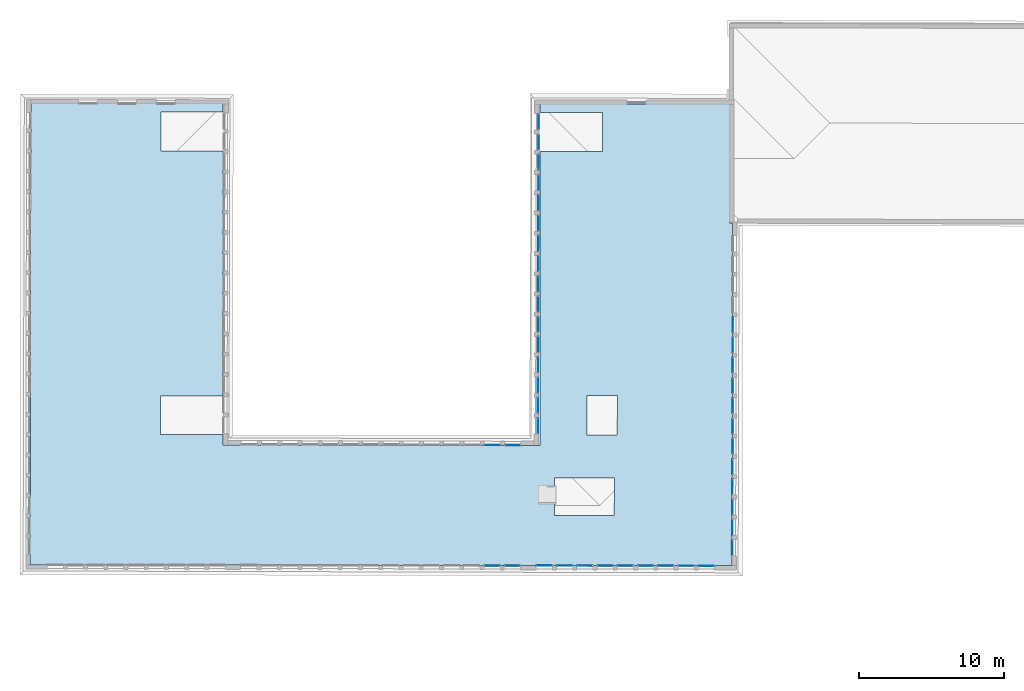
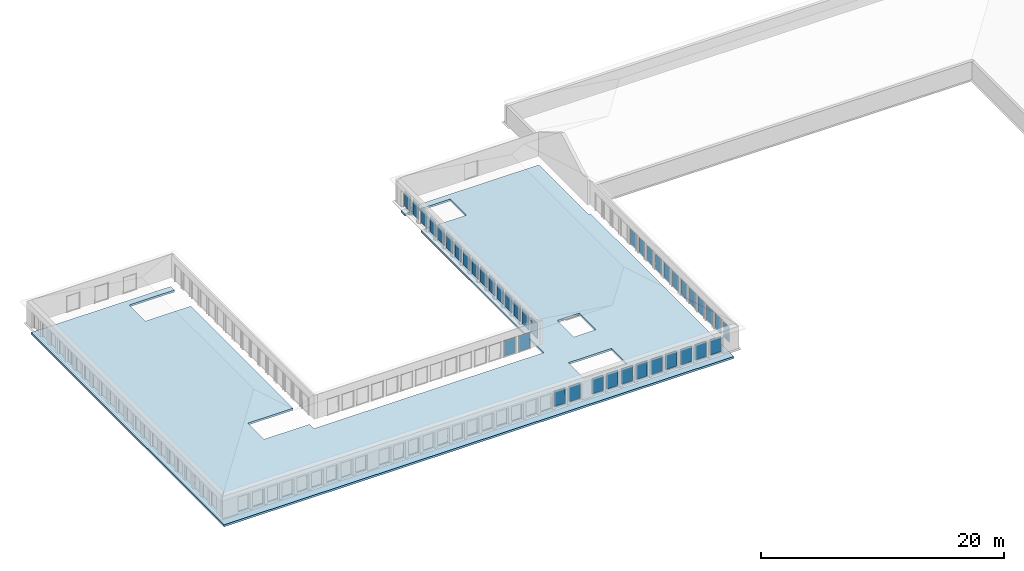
# One storey, part 18 of 26: 41 plates, 1 slab, 2 openings, 41 elements without a shape of their own.
"""IFC2X3 building model written with IfcOpenShell, lengths in metres."""

from ifc_helpers import new_model, entity, si_unit, converted_unit, derived_unit, direction, frame, frame_2d, origin, place, context, subcontext, project, spatial, polyline, rectangle, outline, extrude, boolean, source, transform, mapped, material, layer, layer_set, layer_usage, type_object, type_shapes, element, aggregate, save


model = new_model("IFC2X3")

# Units and contexts
model_context = context("Model", 3, precision=1e-05, world=origin(), true_north=direction((6.123233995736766e-17, 1.0)))
body_context = subcontext(model_context, "Body", "Model", "MODEL_VIEW")
ifc_project = project(units=[si_unit("LENGTHUNIT", "METRE"), si_unit("AREAUNIT", "SQUARE_METRE"), converted_unit("PLANEANGLEUNIT", "DEGREE", entity("IfcPlaneAngleMeasure", 0.017453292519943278), si_unit("PLANEANGLEUNIT", "RADIAN"), dimensions=[0, 0, 0, 0, 0, 0, 0]), derived_unit("THERMALTRANSMITTANCEUNIT", [(si_unit("MASSUNIT", "GRAM", prefix="KILO"), 1), (si_unit("THERMODYNAMICTEMPERATUREUNIT", "KELVIN"), -1), (si_unit("TIMEUNIT", "SECOND"), -3)])], contexts=[model_context])

# Site, building, storey
site_placement = place(None, frame((1253.6752467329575, 2072.143113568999, 91.49999999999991), z_axis=(0.0, 0.0, 1.0), x_axis=(0.7237211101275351, 0.6900925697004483, 0.0)))
site = spatial("IfcSite", under=ifc_project, at=site_placement, Name="Surface", CompositionType="ELEMENT")
building_placement = place(site_placement, origin())
building = spatial("IfcBuilding", under=site, at=building_placement, CompositionType="ELEMENT")
storey_placement = place(building_placement, frame((0.0, 0.0, 7.0)))
storey = spatial("IfcBuildingStorey", under=building, at=storey_placement, Name="2-R+2", CompositionType="ELEMENT", Elevation=6.999999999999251)

# Slab, openings
ifc_material_1 = material(Name="OMD_Béton blanc")
ifc_layer_1 = layer(ifc_material_1, 0.2)
ifc_layer_set_1 = layer_set([ifc_layer_1], Name="Sol:Dalle 20")
ifc_layer_usage = layer_usage(ifc_layer_set_1, "AXIS3", "POSITIVE", 0.0)
slab_type = type_object("IfcSlabType", Name="Sol:Dalle 20", PredefinedType="FLOOR", material=ifc_layer_set_1)
slab_placement = place(storey_placement, origin())
slab = element("IfcSlab", 1, at=slab_placement, inside=storey, type_object=slab_type, material=ifc_layer_usage, Name="Sol:Dalle 20", ObjectType="Sol:Dalle 20", PredefinedType="FLOOR", context=body_context, shape_type="SweptSolid", body=[
    boolean("DIFFERENCE", boolean("DIFFERENCE", extrude(outline(polyline([(-10.40944307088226, 10.754973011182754), (-9.807814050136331, 10.754973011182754), (-9.80781405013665, 15.056299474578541), (-7.136810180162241, 15.056299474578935), (-7.136810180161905, 10.754973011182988), (9.793189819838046, 10.754973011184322), (9.793189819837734, 15.069441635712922), (12.463189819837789, 15.06944163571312), (12.463189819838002, 10.75497301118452), (13.178189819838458, 10.754973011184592), (13.178189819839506, -11.14502698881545), (-7.136810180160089, -11.145026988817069), (-7.136810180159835, -15.455026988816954), (-9.806810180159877, -15.455026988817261), (-9.806810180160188, -11.145026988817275), (-10.42181018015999, -11.145026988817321), (-10.421810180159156, -24.250318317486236), (-2.184140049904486, -24.25031831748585), (-2.1841400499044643, -24.44502698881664), (21.478189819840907, -24.44502698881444), (21.478189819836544, 24.053532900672), (-10.42768584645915, 24.045999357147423), (-10.40944307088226, 10.754973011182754)])), frame((176.46200205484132, 3.181986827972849, 0.0), z_axis=(0.0, 0.0, -1.0), x_axis=(-0.6909838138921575, -0.722870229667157, 0.0)), (0.0, 0.0, 1.0), 0.2), extrude(rectangle(XDim=2.7349999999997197, YDim=2.099999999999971, at=frame_2d((4.551914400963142e-15, 4.440892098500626e-15), x_axis=(1.0, 0.0))), frame((179.9598101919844, -15.511020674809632, -0.2), z_axis=(0.0, 0.0, 1.0), x_axis=(0.6909838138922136, 0.7228702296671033, 0.0)), (0.0, 0.0, 1.0), 0.2)), extrude(rectangle(XDim=2.5849999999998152, YDim=4.129999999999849, at=frame_2d((2.275957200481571e-14, 2.1760371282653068e-14), x_axis=(1.0, 0.0))), frame((175.18437415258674, -18.74846343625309, -0.2), z_axis=(0.0, 0.0, 1.0), x_axis=(0.6909838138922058, 0.722870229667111, 0.0)), (0.0, 0.0, 1.0), 0.19999999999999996)),
])
opening_1_placement = place(slab_placement, origin())
element("IfcOpeningElement", 2, at=opening_1_placement, cuts=slab, Name="Sol:Dalle 20", ObjectType="Opening", context=body_context, shape_type="SweptSolid", body=[
    extrude(rectangle(XDim=2.7349999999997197, YDim=2.0999999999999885, at=frame_2d((3.1086244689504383e-15, -2.9976021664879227e-15), x_axis=(1.0, 0.0))), frame((179.9598101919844, -15.511020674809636, 0.0), z_axis=(0.0, 0.0, -1.0), x_axis=(-0.6909838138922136, -0.7228702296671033, 0.0)), (0.0, 0.0, 1.0), 0.2),
])
opening_2_placement = place(slab_placement, origin())
element("IfcOpeningElement", 3, at=opening_2_placement, cuts=slab, Name="Sol:Dalle 20", ObjectType="Opening", context=body_context, shape_type="SweptSolid", body=[
    extrude(rectangle(XDim=2.5849999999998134, YDim=4.1299999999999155, at=frame_2d((3.3861802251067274e-14, -8.215650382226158e-15), x_axis=(1.0, 0.0))), frame((175.18437415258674, -18.748463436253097, 0.0), z_axis=(0.0, 0.0, -1.0), x_axis=(-0.6909838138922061, -0.7228702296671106, 0.0)), (0.0, 0.0, 1.0), 0.2),
])

# Curtain wall, plate
curtain_wall_type = type_object("IfcCurtainWallType", Name="Mur-rideau:Menuiserie Ext 1F+1OB VERTIC", PredefinedType="NOTDEFINED")
curtain_wall_1_placement = place(storey_placement, frame((0.0, 0.0, -7.0)))
curtain_wall_1 = element("IfcCurtainWall", 4, at=curtain_wall_1_placement, inside=storey, type_object=curtain_wall_type, Name="Mur-rideau:Menuiserie Ext 1F+1OB VERTIC", ObjectType="Mur-rideau:Menuiserie Ext 1F+1OB VERTIC")
ifc_material_2 = material(Name="Verre")
ifc_layer_2 = layer(ifc_material_2, 0.01)
ifc_layer_set_2 = layer_set([ifc_layer_2], Name="Panneau système:Vitré")
plate_type_1 = type_object("IfcPlateType", Name="Panneau système:Vitré", PredefinedType="CURTAIN_PANEL", material=ifc_layer_set_2)
shared_shape_1 = source(origin(), body_context, "Body", "SweptSolid", [
    extrude(rectangle(XDim=0.01, YDim=1.0399999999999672, at=frame_2d((0.0, -8.881784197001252e-16), x_axis=(1.0, 0.0))), frame((0.0, 0.0, 0.0), z_axis=(0.0, 0.0, 1.0), x_axis=(0.0, 1.0, 0.0)), (0.0, 0.0, 1.0), 1.5499999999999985),
])
type_shapes(plate_type_1, [shared_shape_1])
plate_1_placement = place(curtain_wall_1_placement, frame((190.7810137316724, 2.1752439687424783, 7.950000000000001), z_axis=(0.0, 0.0, 1.0), x_axis=(0.6909838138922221, 0.7228702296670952, 0.0)))
plate_1 = element("IfcPlate", 5, at=plate_1_placement, type_object=plate_type_1, material=ifc_material_2, Name="Panneau système:Vitré", ObjectType="Panneau système:Vitré", context=body_context, shape_type="MappedRepresentation", body=[
    mapped(shared_shape_1, transform((0.0, 0.0, 0.0), scale=1.0)),
])
aggregate(curtain_wall_1, [plate_1])

curtain_wall_2_placement = place(storey_placement, frame((0.0, 0.0, -7.0)))
curtain_wall_2 = element("IfcCurtainWall", 6, at=curtain_wall_2_placement, inside=storey, type_object=curtain_wall_type, Name="Mur-rideau:Menuiserie Ext 1F+1OB VERTIC", ObjectType="Mur-rideau:Menuiserie Ext 1F+1OB VERTIC")
plate_2_placement = place(curtain_wall_2_placement, frame((189.81224824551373, 1.1645543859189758, 7.950000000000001), z_axis=(0.0, 0.0, 1.0), x_axis=(0.6909838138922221, 0.7228702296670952, 0.0)))
plate_2 = element("IfcPlate", 7, at=plate_2_placement, type_object=plate_type_1, material=ifc_material_2, Name="Panneau système:Vitré", ObjectType="Panneau système:Vitré", context=body_context, shape_type="MappedRepresentation", body=[
    mapped(shared_shape_1, transform((0.0, 0.0, 0.0), scale=1.0)),
])
aggregate(curtain_wall_2, [plate_2])

curtain_wall_3_placement = place(storey_placement, frame((0.0, 0.0, -7.0)))
curtain_wall_3 = element("IfcCurtainWall", 8, at=curtain_wall_3_placement, inside=storey, type_object=curtain_wall_type, Name="Mur-rideau:Menuiserie Ext 1F+1OB VERTIC", ObjectType="Mur-rideau:Menuiserie Ext 1F+1OB VERTIC")
plate_3_placement = place(curtain_wall_3_placement, frame((188.84348275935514, 0.15386480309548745, 7.950000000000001), z_axis=(0.0, 0.0, 1.0), x_axis=(0.6909838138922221, 0.7228702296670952, 0.0)))
plate_3 = element("IfcPlate", 9, at=plate_3_placement, type_object=plate_type_1, material=ifc_material_2, Name="Panneau système:Vitré", ObjectType="Panneau système:Vitré", context=body_context, shape_type="MappedRepresentation", body=[
    mapped(shared_shape_1, transform((0.0, 0.0, 0.0), scale=1.0)),
])
aggregate(curtain_wall_3, [plate_3])

curtain_wall_4_placement = place(storey_placement, frame((0.0, 0.0, -7.0)))
curtain_wall_4 = element("IfcCurtainWall", 10, at=curtain_wall_4_placement, inside=storey, type_object=curtain_wall_type, Name="Mur-rideau:Menuiserie Ext 1F+1OB VERTIC", ObjectType="Mur-rideau:Menuiserie Ext 1F+1OB VERTIC")
plate_4_placement = place(curtain_wall_4_placement, frame((187.87471727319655, -0.8568247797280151, 7.950000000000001), z_axis=(0.0, 0.0, 1.0), x_axis=(0.6909838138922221, 0.7228702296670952, 0.0)))
plate_4 = element("IfcPlate", 11, at=plate_4_placement, type_object=plate_type_1, material=ifc_material_2, Name="Panneau système:Vitré", ObjectType="Panneau système:Vitré", context=body_context, shape_type="MappedRepresentation", body=[
    mapped(shared_shape_1, transform((0.0, 0.0, 0.0), scale=1.0)),
])
aggregate(curtain_wall_4, [plate_4])

curtain_wall_5_placement = place(storey_placement, frame((0.0, 0.0, -7.0)))
curtain_wall_5 = element("IfcCurtainWall", 12, at=curtain_wall_5_placement, inside=storey, type_object=curtain_wall_type, Name="Mur-rideau:Menuiserie Ext 1F+1OB VERTIC", ObjectType="Mur-rideau:Menuiserie Ext 1F+1OB VERTIC")
plate_5_placement = place(curtain_wall_5_placement, frame((186.90595178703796, -1.867514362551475, 7.950000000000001), z_axis=(0.0, 0.0, 1.0), x_axis=(0.6909838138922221, 0.7228702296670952, 0.0)))
plate_5 = element("IfcPlate", 13, at=plate_5_placement, type_object=plate_type_1, material=ifc_material_2, Name="Panneau système:Vitré", ObjectType="Panneau système:Vitré", context=body_context, shape_type="MappedRepresentation", body=[
    mapped(shared_shape_1, transform((0.0, 0.0, 0.0), scale=1.0)),
])
aggregate(curtain_wall_5, [plate_5])

curtain_wall_6_placement = place(storey_placement, frame((0.0, 0.0, -7.0)))
curtain_wall_6 = element("IfcCurtainWall", 14, at=curtain_wall_6_placement, inside=storey, type_object=curtain_wall_type, Name="Mur-rideau:Menuiserie Ext 1F+1OB VERTIC", ObjectType="Mur-rideau:Menuiserie Ext 1F+1OB VERTIC")
plate_6_placement = place(curtain_wall_6_placement, frame((185.93718630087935, -2.8782039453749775, 7.950000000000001), z_axis=(0.0, 0.0, 1.0), x_axis=(0.6909838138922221, 0.7228702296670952, 0.0)))
plate_6 = element("IfcPlate", 15, at=plate_6_placement, type_object=plate_type_1, material=ifc_material_2, Name="Panneau système:Vitré", ObjectType="Panneau système:Vitré", context=body_context, shape_type="MappedRepresentation", body=[
    mapped(shared_shape_1, transform((0.0, 0.0, 0.0), scale=1.0)),
])
aggregate(curtain_wall_6, [plate_6])

curtain_wall_7_placement = place(storey_placement, frame((0.0, 0.0, -7.0)))
curtain_wall_7 = element("IfcCurtainWall", 16, at=curtain_wall_7_placement, inside=storey, type_object=curtain_wall_type, Name="Mur-rideau:Menuiserie Ext 1F+1OB VERTIC", ObjectType="Mur-rideau:Menuiserie Ext 1F+1OB VERTIC")
plate_7_placement = place(curtain_wall_7_placement, frame((184.9684208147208, -3.888893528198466, 7.950000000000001), z_axis=(0.0, 0.0, 1.0), x_axis=(0.6909838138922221, 0.7228702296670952, 0.0)))
plate_7 = element("IfcPlate", 17, at=plate_7_placement, type_object=plate_type_1, material=ifc_material_2, Name="Panneau système:Vitré", ObjectType="Panneau système:Vitré", context=body_context, shape_type="MappedRepresentation", body=[
    mapped(shared_shape_1, transform((0.0, 0.0, 0.0), scale=1.0)),
])
aggregate(curtain_wall_7, [plate_7])

curtain_wall_8_placement = place(storey_placement, frame((0.0, 0.0, -7.0)))
curtain_wall_8 = element("IfcCurtainWall", 18, at=curtain_wall_8_placement, inside=storey, type_object=curtain_wall_type, Name="Mur-rideau:Menuiserie Ext 1F+1OB VERTIC", ObjectType="Mur-rideau:Menuiserie Ext 1F+1OB VERTIC")
plate_8_placement = place(curtain_wall_8_placement, frame((183.99965532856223, -4.899583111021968, 7.950000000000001), z_axis=(0.0, 0.0, 1.0), x_axis=(0.6909838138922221, 0.7228702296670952, 0.0)))
plate_8 = element("IfcPlate", 19, at=plate_8_placement, type_object=plate_type_1, material=ifc_material_2, Name="Panneau système:Vitré", ObjectType="Panneau système:Vitré", context=body_context, shape_type="MappedRepresentation", body=[
    mapped(shared_shape_1, transform((0.0, 0.0, 0.0), scale=1.0)),
])
aggregate(curtain_wall_8, [plate_8])

curtain_wall_9_placement = place(storey_placement, frame((0.0, 0.0, -7.0)))
curtain_wall_9 = element("IfcCurtainWall", 20, at=curtain_wall_9_placement, inside=storey, type_object=curtain_wall_type, Name="Mur-rideau:Menuiserie Ext 1F+1OB VERTIC", ObjectType="Mur-rideau:Menuiserie Ext 1F+1OB VERTIC")
plate_9_placement = place(curtain_wall_9_placement, frame((183.03088984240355, -5.910272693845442, 7.950000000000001), z_axis=(0.0, 0.0, 1.0), x_axis=(0.6909838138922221, 0.7228702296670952, 0.0)))
plate_9 = element("IfcPlate", 21, at=plate_9_placement, type_object=plate_type_1, material=ifc_material_2, Name="Panneau système:Vitré", ObjectType="Panneau système:Vitré", context=body_context, shape_type="MappedRepresentation", body=[
    mapped(shared_shape_1, transform((0.0, 0.0, 0.0), scale=1.0)),
])
aggregate(curtain_wall_9, [plate_9])

curtain_wall_10_placement = place(storey_placement, frame((0.0, 0.0, -7.0)))
curtain_wall_10 = element("IfcCurtainWall", 22, at=curtain_wall_10_placement, inside=storey, type_object=curtain_wall_type, Name="Mur-rideau:Menuiserie Ext 1F+1OB VERTIC", ObjectType="Mur-rideau:Menuiserie Ext 1F+1OB VERTIC")
plate_10_placement = place(curtain_wall_10_placement, frame((182.062124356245, -6.9209622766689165, 7.950000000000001), z_axis=(0.0, 0.0, 1.0), x_axis=(0.6909838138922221, 0.7228702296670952, 0.0)))
plate_10 = element("IfcPlate", 23, at=plate_10_placement, type_object=plate_type_1, material=ifc_material_2, Name="Panneau système:Vitré", ObjectType="Panneau système:Vitré", context=body_context, shape_type="MappedRepresentation", body=[
    mapped(shared_shape_1, transform((0.0, 0.0, 0.0), scale=1.0)),
])
aggregate(curtain_wall_10, [plate_10])

curtain_wall_11_placement = place(storey_placement, frame((0.0, 0.0, -7.0)))
curtain_wall_11 = element("IfcCurtainWall", 24, at=curtain_wall_11_placement, inside=storey, type_object=curtain_wall_type, Name="Mur-rideau:Menuiserie Ext 1F+1OB VERTIC", ObjectType="Mur-rideau:Menuiserie Ext 1F+1OB VERTIC")
plate_11_placement = place(curtain_wall_11_placement, frame((181.10719837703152, -7.9172134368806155, 7.950000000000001), z_axis=(0.0, 0.0, 1.0), x_axis=(0.6909838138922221, 0.7228702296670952, 0.0)))
plate_11 = element("IfcPlate", 25, at=plate_11_placement, type_object=plate_type_1, material=ifc_material_2, Name="Panneau système:Vitré", ObjectType="Panneau système:Vitré", context=body_context, shape_type="MappedRepresentation", body=[
    mapped(shared_shape_1, transform((0.0, 0.0, 0.0), scale=1.0)),
])
aggregate(curtain_wall_11, [plate_11])

curtain_wall_12_placement = place(storey_placement, frame((0.0, 0.0, -7.0)))
curtain_wall_12 = element("IfcCurtainWall", 26, at=curtain_wall_12_placement, inside=storey, type_object=curtain_wall_type, Name="Mur-rideau:Menuiserie Ext 1F+1OB VERTIC", ObjectType="Mur-rideau:Menuiserie Ext 1F+1OB VERTIC")
plate_12_placement = place(curtain_wall_12_placement, frame((180.13843289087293, -8.927903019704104, 7.950000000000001), z_axis=(0.0, 0.0, 1.0), x_axis=(0.6909838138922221, 0.7228702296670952, 0.0)))
plate_12 = element("IfcPlate", 27, at=plate_12_placement, type_object=plate_type_1, material=ifc_material_2, Name="Panneau système:Vitré", ObjectType="Panneau système:Vitré", context=body_context, shape_type="MappedRepresentation", body=[
    mapped(shared_shape_1, transform((0.0, 0.0, 0.0), scale=1.0)),
])
aggregate(curtain_wall_12, [plate_12])

curtain_wall_13_placement = place(storey_placement, frame((0.0, 0.0, -7.0)))
curtain_wall_13 = element("IfcCurtainWall", 28, at=curtain_wall_13_placement, inside=storey, type_object=curtain_wall_type, Name="Mur-rideau:Menuiserie Ext 1F+1OB VERTIC", ObjectType="Mur-rideau:Menuiserie Ext 1F+1OB VERTIC")
plate_13_placement = place(curtain_wall_13_placement, frame((179.16966740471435, -9.93859260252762, 7.950000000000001), z_axis=(0.0, 0.0, 1.0), x_axis=(0.6909838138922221, 0.7228702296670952, 0.0)))
plate_13 = element("IfcPlate", 29, at=plate_13_placement, type_object=plate_type_1, material=ifc_material_2, Name="Panneau système:Vitré", ObjectType="Panneau système:Vitré", context=body_context, shape_type="MappedRepresentation", body=[
    mapped(shared_shape_1, transform((0.0, 0.0, 0.0), scale=1.0)),
])
aggregate(curtain_wall_13, [plate_13])

curtain_wall_14_placement = place(storey_placement, frame((0.0, 0.0, -7.0)))
curtain_wall_14 = element("IfcCurtainWall", 30, at=curtain_wall_14_placement, inside=storey, type_object=curtain_wall_type, Name="Mur-rideau:Menuiserie Ext 1F+1OB VERTIC", ObjectType="Mur-rideau:Menuiserie Ext 1F+1OB VERTIC")
plate_14_placement = place(curtain_wall_14_placement, frame((178.20090191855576, -10.949282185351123, 7.950000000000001), z_axis=(0.0, 0.0, 1.0), x_axis=(0.6909838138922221, 0.7228702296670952, 0.0)))
plate_14 = element("IfcPlate", 31, at=plate_14_placement, type_object=plate_type_1, material=ifc_material_2, Name="Panneau système:Vitré", ObjectType="Panneau système:Vitré", context=body_context, shape_type="MappedRepresentation", body=[
    mapped(shared_shape_1, transform((0.0, 0.0, 0.0), scale=1.0)),
])
aggregate(curtain_wall_14, [plate_14])

curtain_wall_15_placement = place(storey_placement, frame((0.0, 0.0, -7.0)))
curtain_wall_15 = element("IfcCurtainWall", 32, at=curtain_wall_15_placement, inside=storey, type_object=curtain_wall_type, Name="Mur-rideau:Menuiserie Ext 1F+1OB VERTIC", ObjectType="Mur-rideau:Menuiserie Ext 1F+1OB VERTIC")
plate_15_placement = place(curtain_wall_15_placement, frame((177.23213643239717, -11.959971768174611, 7.950000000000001), z_axis=(0.0, 0.0, 1.0), x_axis=(0.6909838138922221, 0.7228702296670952, 0.0)))
plate_15 = element("IfcPlate", 33, at=plate_15_placement, type_object=plate_type_1, material=ifc_material_2, Name="Panneau système:Vitré", ObjectType="Panneau système:Vitré", context=body_context, shape_type="MappedRepresentation", body=[
    mapped(shared_shape_1, transform((0.0, 0.0, 0.0), scale=1.0)),
])
aggregate(curtain_wall_15, [plate_15])

curtain_wall_16_placement = place(storey_placement, frame((0.0, 0.0, -7.0)))
curtain_wall_16 = element("IfcCurtainWall", 34, at=curtain_wall_16_placement, inside=storey, type_object=curtain_wall_type, Name="Mur-rideau:Menuiserie Ext 1F+1OB VERTIC", ObjectType="Mur-rideau:Menuiserie Ext 1F+1OB VERTIC")
plate_16_placement = place(curtain_wall_16_placement, frame((176.26337094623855, -12.9706613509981, 7.950000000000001), z_axis=(0.0, 0.0, 1.0), x_axis=(0.6909838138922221, 0.7228702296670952, 0.0)))
plate_16 = element("IfcPlate", 35, at=plate_16_placement, type_object=plate_type_1, material=ifc_material_2, Name="Panneau système:Vitré", ObjectType="Panneau système:Vitré", context=body_context, shape_type="MappedRepresentation", body=[
    mapped(shared_shape_1, transform((0.0, 0.0, 0.0), scale=1.0)),
])
aggregate(curtain_wall_16, [plate_16])

curtain_wall_17_placement = place(storey_placement, frame((0.0, 0.0, -7.0)))
curtain_wall_17 = element("IfcCurtainWall", 36, at=curtain_wall_17_placement, inside=storey, type_object=curtain_wall_type, Name="Mur-rideau:Menuiserie Ext 1F+1OB VERTIC", ObjectType="Mur-rideau:Menuiserie Ext 1F+1OB VERTIC")
plate_17_placement = place(curtain_wall_17_placement, frame((173.0576155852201, -11.778594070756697, 7.950000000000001), z_axis=(0.0, 0.0, 1.0), x_axis=(0.7228702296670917, -0.6909838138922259, 0.0)))
plate_17 = element("IfcPlate", 37, at=plate_17_placement, type_object=plate_type_1, material=ifc_material_2, Name="Panneau système:Vitré", ObjectType="Panneau système:Vitré", context=body_context, shape_type="MappedRepresentation", body=[
    mapped(shared_shape_1, transform((0.0, 0.0, 0.0), scale=1.0)),
])
aggregate(curtain_wall_17, [plate_17])

curtain_wall_18_placement = place(storey_placement, frame((0.0, 0.0, -7.0)))
curtain_wall_18 = element("IfcCurtainWall", 38, at=curtain_wall_18_placement, inside=storey, type_object=curtain_wall_type, Name="Mur-rideau:Menuiserie Ext 1F+1OB VERTIC", ObjectType="Mur-rideau:Menuiserie Ext 1F+1OB VERTIC")
plate_18_placement = place(curtain_wall_18_placement, frame((174.0683051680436, -12.747359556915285, 7.950000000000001), z_axis=(0.0, 0.0, 1.0), x_axis=(0.7228702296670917, -0.6909838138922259, 0.0)))
plate_18 = element("IfcPlate", 39, at=plate_18_placement, type_object=plate_type_1, material=ifc_material_2, Name="Panneau système:Vitré", ObjectType="Panneau système:Vitré", context=body_context, shape_type="MappedRepresentation", body=[
    mapped(shared_shape_1, transform((0.0, 0.0, 0.0), scale=1.0)),
])
aggregate(curtain_wall_18, [plate_18])

curtain_wall_19_placement = place(storey_placement, frame((0.0, 0.0, -7.0)))
curtain_wall_19 = element("IfcCurtainWall", 40, at=curtain_wall_19_placement, inside=storey, type_object=curtain_wall_type, Name="Mur-rideau:Menuiserie Ext 1F+1OB VERTIC", ObjectType="Mur-rideau:Menuiserie Ext 1F+1OB VERTIC")
plate_19_placement = place(curtain_wall_19_placement, frame((177.99092816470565, -28.019537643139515, 7.950000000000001), z_axis=(0.0, 0.0, 1.0), x_axis=(-0.7228702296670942, 0.6909838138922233, 0.0)))
plate_19 = element("IfcPlate", 41, at=plate_19_placement, type_object=plate_type_1, material=ifc_material_2, Name="Panneau système:Vitré", ObjectType="Panneau système:Vitré", context=body_context, shape_type="MappedRepresentation", body=[
    mapped(shared_shape_1, transform((0.0, 0.0, 0.0), scale=1.0)),
])
aggregate(curtain_wall_19, [plate_19])

curtain_wall_20_placement = place(storey_placement, frame((0.0, 0.0, -7.0)))
curtain_wall_20 = element("IfcCurtainWall", 42, at=curtain_wall_20_placement, inside=storey, type_object=curtain_wall_type, Name="Mur-rideau:Menuiserie Ext 1F+1OB VERTIC", ObjectType="Mur-rideau:Menuiserie Ext 1F+1OB VERTIC")
plate_20_placement = place(curtain_wall_20_placement, frame((176.98023858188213, -27.050772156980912, 7.950000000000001), z_axis=(0.0, 0.0, 1.0), x_axis=(-0.7228702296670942, 0.6909838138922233, 0.0)))
plate_20 = element("IfcPlate", 43, at=plate_20_placement, type_object=plate_type_1, material=ifc_material_2, Name="Panneau système:Vitré", ObjectType="Panneau système:Vitré", context=body_context, shape_type="MappedRepresentation", body=[
    mapped(shared_shape_1, transform((0.0, 0.0, 0.0), scale=1.0)),
])
aggregate(curtain_wall_20, [plate_20])

curtain_wall_21_placement = place(storey_placement, frame((0.0, 0.0, -7.0)))
curtain_wall_21 = element("IfcCurtainWall", 44, at=curtain_wall_21_placement, inside=storey, type_object=curtain_wall_type, Name="Mur-rideau:Menuiserie Ext 1F+1OB VERTIC", ObjectType="Mur-rideau:Menuiserie Ext 1F+1OB VERTIC")
plate_21_placement = place(curtain_wall_21_placement, frame((175.96954899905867, -26.082006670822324, 7.950000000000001), z_axis=(0.0, 0.0, 1.0), x_axis=(-0.7228702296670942, 0.6909838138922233, 0.0)))
plate_21 = element("IfcPlate", 45, at=plate_21_placement, type_object=plate_type_1, material=ifc_material_2, Name="Panneau système:Vitré", ObjectType="Panneau système:Vitré", context=body_context, shape_type="MappedRepresentation", body=[
    mapped(shared_shape_1, transform((0.0, 0.0, 0.0), scale=1.0)),
])
aggregate(curtain_wall_21, [plate_21])

curtain_wall_22_placement = place(storey_placement, frame((0.0, 0.0, -7.0)))
curtain_wall_22 = element("IfcCurtainWall", 46, at=curtain_wall_22_placement, inside=storey, type_object=curtain_wall_type, Name="Mur-rideau:Menuiserie Ext 1F+1OB VERTIC", ObjectType="Mur-rideau:Menuiserie Ext 1F+1OB VERTIC")
plate_22_placement = place(curtain_wall_22_placement, frame((174.95885941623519, -25.11324118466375, 7.950000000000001), z_axis=(0.0, 0.0, 1.0), x_axis=(-0.7228702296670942, 0.6909838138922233, 0.0)))
plate_22 = element("IfcPlate", 47, at=plate_22_placement, type_object=plate_type_1, material=ifc_material_2, Name="Panneau système:Vitré", ObjectType="Panneau système:Vitré", context=body_context, shape_type="MappedRepresentation", body=[
    mapped(shared_shape_1, transform((0.0, 0.0, 0.0), scale=1.0)),
])
aggregate(curtain_wall_22, [plate_22])

curtain_wall_23_placement = place(storey_placement, frame((0.0, 0.0, -7.0)))
curtain_wall_23 = element("IfcCurtainWall", 48, at=curtain_wall_23_placement, inside=storey, type_object=curtain_wall_type, Name="Mur-rideau:Menuiserie Ext 1F+1OB VERTIC", ObjectType="Mur-rideau:Menuiserie Ext 1F+1OB VERTIC")
plate_23_placement = place(curtain_wall_23_placement, frame((173.94816983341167, -24.144475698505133, 7.950000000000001), z_axis=(0.0, 0.0, 1.0), x_axis=(-0.7228702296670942, 0.6909838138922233, 0.0)))
plate_23 = element("IfcPlate", 49, at=plate_23_placement, type_object=plate_type_1, material=ifc_material_2, Name="Panneau système:Vitré", ObjectType="Panneau système:Vitré", context=body_context, shape_type="MappedRepresentation", body=[
    mapped(shared_shape_1, transform((0.0, 0.0, 0.0), scale=1.0)),
])
aggregate(curtain_wall_23, [plate_23])

curtain_wall_24_placement = place(storey_placement, frame((0.0, 0.0, -7.0)))
curtain_wall_24 = element("IfcCurtainWall", 50, at=curtain_wall_24_placement, inside=storey, type_object=curtain_wall_type, Name="Mur-rideau:Menuiserie Ext 1F+1OB VERTIC", ObjectType="Mur-rideau:Menuiserie Ext 1F+1OB VERTIC")
plate_24_placement = place(curtain_wall_24_placement, frame((172.93748025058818, -23.175710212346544, 7.950000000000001), z_axis=(0.0, 0.0, 1.0), x_axis=(-0.7228702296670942, 0.6909838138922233, 0.0)))
plate_24 = element("IfcPlate", 51, at=plate_24_placement, type_object=plate_type_1, material=ifc_material_2, Name="Panneau système:Vitré", ObjectType="Panneau système:Vitré", context=body_context, shape_type="MappedRepresentation", body=[
    mapped(shared_shape_1, transform((0.0, 0.0, 0.0), scale=1.0)),
])
aggregate(curtain_wall_24, [plate_24])

curtain_wall_25_placement = place(storey_placement, frame((0.0, 0.0, -7.0)))
curtain_wall_25 = element("IfcCurtainWall", 52, at=curtain_wall_25_placement, inside=storey, type_object=curtain_wall_type, Name="Mur-rideau:Menuiserie Ext 1F+1OB VERTIC", ObjectType="Mur-rideau:Menuiserie Ext 1F+1OB VERTIC")
plate_25_placement = place(curtain_wall_25_placement, frame((171.9267906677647, -22.20694472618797, 7.950000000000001), z_axis=(0.0, 0.0, 1.0), x_axis=(-0.7228702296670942, 0.6909838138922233, 0.0)))
plate_25 = element("IfcPlate", 53, at=plate_25_placement, type_object=plate_type_1, material=ifc_material_2, Name="Panneau système:Vitré", ObjectType="Panneau système:Vitré", context=body_context, shape_type="MappedRepresentation", body=[
    mapped(shared_shape_1, transform((0.0, 0.0, 0.0), scale=1.0)),
])
aggregate(curtain_wall_25, [plate_25])

curtain_wall_26_placement = place(storey_placement, frame((0.0, 0.0, -7.0)))
curtain_wall_26 = element("IfcCurtainWall", 54, at=curtain_wall_26_placement, inside=storey, type_object=curtain_wall_type, Name="Mur-rideau:Menuiserie Ext 1F+1OB VERTIC", ObjectType="Mur-rideau:Menuiserie Ext 1F+1OB VERTIC")
plate_26_placement = place(curtain_wall_26_placement, frame((170.91594749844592, -21.238032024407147, 7.950000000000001), z_axis=(0.0, 0.0, 1.0), x_axis=(-0.7228702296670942, 0.6909838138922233, 0.0)))
plate_26 = element("IfcPlate", 55, at=plate_26_placement, type_object=plate_type_1, material=ifc_material_2, Name="Panneau système:Vitré", ObjectType="Panneau système:Vitré", context=body_context, shape_type="MappedRepresentation", body=[
    mapped(shared_shape_1, transform((0.0, 0.0, 0.0), scale=1.0)),
])
aggregate(curtain_wall_26, [plate_26])

curtain_wall_27_placement = place(storey_placement, frame((0.0, 0.0, -7.0)))
curtain_wall_27 = element("IfcCurtainWall", 56, at=curtain_wall_27_placement, inside=storey, type_object=curtain_wall_type, Name="Mur-rideau:Menuiserie Ext 1F+1OB VERTIC", ObjectType="Mur-rideau:Menuiserie Ext 1F+1OB VERTIC")
plate_27_placement = place(curtain_wall_27_placement, frame((169.90525791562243, -20.26926653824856, 7.950000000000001), z_axis=(0.0, 0.0, 1.0), x_axis=(-0.7228702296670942, 0.6909838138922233, 0.0)))
plate_27 = element("IfcPlate", 57, at=plate_27_placement, type_object=plate_type_1, material=ifc_material_2, Name="Panneau système:Vitré", ObjectType="Panneau système:Vitré", context=body_context, shape_type="MappedRepresentation", body=[
    mapped(shared_shape_1, transform((0.0, 0.0, 0.0), scale=1.0)),
])
aggregate(curtain_wall_27, [plate_27])

curtain_wall_28_placement = place(storey_placement, frame((0.0, 0.0, -7.0)))
curtain_wall_28 = element("IfcCurtainWall", 58, at=curtain_wall_28_placement, inside=storey, type_object=curtain_wall_type, Name="Mur-rideau:Menuiserie Ext 1F+1OB VERTIC", ObjectType="Mur-rideau:Menuiserie Ext 1F+1OB VERTIC")
plate_28_placement = place(curtain_wall_28_placement, frame((168.3066517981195, -18.75774959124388, 7.950000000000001), z_axis=(0.0, 0.0, 1.0), x_axis=(-0.7228702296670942, 0.6909838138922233, 0.0)))
plate_28 = element("IfcPlate", 59, at=plate_28_placement, type_object=plate_type_1, material=ifc_material_2, Name="Panneau système:Vitré", ObjectType="Panneau système:Vitré", context=body_context, shape_type="MappedRepresentation", body=[
    mapped(shared_shape_1, transform((0.0, 0.0, 0.0), scale=1.0)),
])
aggregate(curtain_wall_28, [plate_28])

curtain_wall_29_placement = place(storey_placement, frame((0.0, 0.0, -7.0)))
curtain_wall_29 = element("IfcCurtainWall", 60, at=curtain_wall_29_placement, inside=storey, type_object=curtain_wall_type, Name="Mur-rideau:Menuiserie Ext 1F+1OB VERTIC", ObjectType="Mur-rideau:Menuiserie Ext 1F+1OB VERTIC")
plate_29_placement = place(curtain_wall_29_placement, frame((167.29250233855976, -17.792593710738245, 7.950000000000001), z_axis=(0.0, 0.0, 1.0), x_axis=(-0.7228702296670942, 0.6909838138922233, 0.0)))
plate_29 = element("IfcPlate", 61, at=plate_29_placement, type_object=plate_type_1, material=ifc_material_2, Name="Panneau système:Vitré", ObjectType="Panneau système:Vitré", context=body_context, shape_type="MappedRepresentation", body=[
    mapped(shared_shape_1, transform((0.0, 0.0, 0.0), scale=1.0)),
])
aggregate(curtain_wall_29, [plate_29])

curtain_wall_30_placement = place(storey_placement, frame((0.0, 0.0, -7.0)))
curtain_wall_30 = element("IfcCurtainWall", 62, at=curtain_wall_30_placement, inside=storey, type_object=curtain_wall_type, Name="Mur-rideau:Menuiserie Ext 1F+1OB VERTIC", ObjectType="Mur-rideau:Menuiserie Ext 1F+1OB VERTIC")
plate_type_2 = type_object("IfcPlateType", Name="Panneau système:Vitré", PredefinedType="CURTAIN_PANEL", material=ifc_layer_set_2)
shared_shape_2 = source(origin(), body_context, "Body", "SweptSolid", [
    extrude(rectangle(XDim=0.01, YDim=1.0399999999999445, at=frame_2d((0.0, 1.4988010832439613e-15), x_axis=(1.0, 0.0))), frame((0.0, 0.0, 0.0), z_axis=(0.0, 0.0, 1.0), x_axis=(0.0, 1.0, 0.0)), (0.0, 0.0, 1.0), 1.5499999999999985),
])
type_shapes(plate_type_2, [shared_shape_2])
plate_30_placement = place(curtain_wall_30_placement, frame((190.81056875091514, -17.232994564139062, 7.950000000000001), z_axis=(0.0, 0.0, 1.0), x_axis=(0.6909838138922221, 0.7228702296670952, 0.0)))
plate_30 = element("IfcPlate", 63, at=plate_30_placement, type_object=plate_type_2, material=ifc_material_2, Name="Panneau système:Vitré", ObjectType="Panneau système:Vitré", context=body_context, shape_type="MappedRepresentation", body=[
    mapped(shared_shape_2, transform((0.0, 0.0, 0.0), scale=1.0)),
])
aggregate(curtain_wall_30, [plate_30])

curtain_wall_31_placement = place(storey_placement, frame((0.0, 0.0, -7.0)))
curtain_wall_31 = element("IfcCurtainWall", 64, at=curtain_wall_31_placement, inside=storey, type_object=curtain_wall_type, Name="Mur-rideau:Menuiserie Ext 1F+1OB VERTIC", ObjectType="Mur-rideau:Menuiserie Ext 1F+1OB VERTIC")
plate_31_placement = place(curtain_wall_31_placement, frame((189.84180326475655, -18.243684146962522, 7.950000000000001), z_axis=(0.0, 0.0, 1.0), x_axis=(0.6909838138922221, 0.7228702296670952, 0.0)))
plate_31 = element("IfcPlate", 65, at=plate_31_placement, type_object=plate_type_2, material=ifc_material_2, Name="Panneau système:Vitré", ObjectType="Panneau système:Vitré", context=body_context, shape_type="MappedRepresentation", body=[
    mapped(shared_shape_2, transform((0.0, 0.0, 0.0), scale=1.0)),
])
aggregate(curtain_wall_31, [plate_31])

curtain_wall_32_placement = place(storey_placement, frame((0.0, 0.0, -7.0)))
curtain_wall_32 = element("IfcCurtainWall", 66, at=curtain_wall_32_placement, inside=storey, type_object=curtain_wall_type, Name="Mur-rideau:Menuiserie Ext 1F+1OB VERTIC", ObjectType="Mur-rideau:Menuiserie Ext 1F+1OB VERTIC")
plate_32_placement = place(curtain_wall_32_placement, frame((188.87303777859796, -19.254373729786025, 7.950000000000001), z_axis=(0.0, 0.0, 1.0), x_axis=(0.6909838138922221, 0.7228702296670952, 0.0)))
plate_32 = element("IfcPlate", 67, at=plate_32_placement, type_object=plate_type_2, material=ifc_material_2, Name="Panneau système:Vitré", ObjectType="Panneau système:Vitré", context=body_context, shape_type="MappedRepresentation", body=[
    mapped(shared_shape_2, transform((0.0, 0.0, 0.0), scale=1.0)),
])
aggregate(curtain_wall_32, [plate_32])

curtain_wall_33_placement = place(storey_placement, frame((0.0, 0.0, -7.0)))
curtain_wall_33 = element("IfcCurtainWall", 68, at=curtain_wall_33_placement, inside=storey, type_object=curtain_wall_type, Name="Mur-rideau:Menuiserie Ext 1F+1OB VERTIC", ObjectType="Mur-rideau:Menuiserie Ext 1F+1OB VERTIC")
plate_33_placement = place(curtain_wall_33_placement, frame((187.90427229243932, -20.265063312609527, 7.950000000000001), z_axis=(0.0, 0.0, 1.0), x_axis=(0.6909838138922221, 0.7228702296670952, 0.0)))
plate_33 = element("IfcPlate", 69, at=plate_33_placement, type_object=plate_type_2, material=ifc_material_2, Name="Panneau système:Vitré", ObjectType="Panneau système:Vitré", context=body_context, shape_type="MappedRepresentation", body=[
    mapped(shared_shape_2, transform((0.0, 0.0, 0.0), scale=1.0)),
])
aggregate(curtain_wall_33, [plate_33])

curtain_wall_34_placement = place(storey_placement, frame((0.0, 0.0, -7.0)))
curtain_wall_34 = element("IfcCurtainWall", 70, at=curtain_wall_34_placement, inside=storey, type_object=curtain_wall_type, Name="Mur-rideau:Menuiserie Ext 1F+1OB VERTIC", ObjectType="Mur-rideau:Menuiserie Ext 1F+1OB VERTIC")
plate_34_placement = place(curtain_wall_34_placement, frame((186.93550680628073, -21.275752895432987, 7.950000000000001), z_axis=(0.0, 0.0, 1.0), x_axis=(0.6909838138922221, 0.7228702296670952, 0.0)))
plate_34 = element("IfcPlate", 71, at=plate_34_placement, type_object=plate_type_2, material=ifc_material_2, Name="Panneau système:Vitré", ObjectType="Panneau système:Vitré", context=body_context, shape_type="MappedRepresentation", body=[
    mapped(shared_shape_2, transform((0.0, 0.0, 0.0), scale=1.0)),
])
aggregate(curtain_wall_34, [plate_34])

curtain_wall_35_placement = place(storey_placement, frame((0.0, 0.0, -7.0)))
curtain_wall_35 = element("IfcCurtainWall", 72, at=curtain_wall_35_placement, inside=storey, type_object=curtain_wall_type, Name="Mur-rideau:Menuiserie Ext 1F+1OB VERTIC", ObjectType="Mur-rideau:Menuiserie Ext 1F+1OB VERTIC")
plate_35_placement = place(curtain_wall_35_placement, frame((185.96674132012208, -22.28644247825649, 7.950000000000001), z_axis=(0.0, 0.0, 1.0), x_axis=(0.6909838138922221, 0.7228702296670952, 0.0)))
plate_35 = element("IfcPlate", 73, at=plate_35_placement, type_object=plate_type_2, material=ifc_material_2, Name="Panneau système:Vitré", ObjectType="Panneau système:Vitré", context=body_context, shape_type="MappedRepresentation", body=[
    mapped(shared_shape_2, transform((0.0, 0.0, 0.0), scale=1.0)),
])
aggregate(curtain_wall_35, [plate_35])

curtain_wall_36_placement = place(storey_placement, frame((0.0, 0.0, -7.0)))
curtain_wall_36 = element("IfcCurtainWall", 74, at=curtain_wall_36_placement, inside=storey, type_object=curtain_wall_type, Name="Mur-rideau:Menuiserie Ext 1F+1OB VERTIC", ObjectType="Mur-rideau:Menuiserie Ext 1F+1OB VERTIC")
plate_36_placement = place(curtain_wall_36_placement, frame((185.004085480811, -23.297983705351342, 7.950000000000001), z_axis=(0.0, 0.0, 1.0), x_axis=(0.6909838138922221, 0.7228702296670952, 0.0)))
plate_36 = element("IfcPlate", 75, at=plate_36_placement, type_object=plate_type_2, material=ifc_material_2, Name="Panneau système:Vitré", ObjectType="Panneau système:Vitré", context=body_context, shape_type="MappedRepresentation", body=[
    mapped(shared_shape_2, transform((0.0, 0.0, 0.0), scale=1.0)),
])
aggregate(curtain_wall_36, [plate_36])

curtain_wall_37_placement = place(storey_placement, frame((0.0, 0.0, -7.0)))
curtain_wall_37 = element("IfcCurtainWall", 76, at=curtain_wall_37_placement, inside=storey, type_object=curtain_wall_type, Name="Mur-rideau:Menuiserie Ext 1F+1OB VERTIC", ObjectType="Mur-rideau:Menuiserie Ext 1F+1OB VERTIC")
plate_37_placement = place(curtain_wall_37_placement, frame((184.03171038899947, -24.305213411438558, 7.950000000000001), z_axis=(0.0, 0.0, 1.0), x_axis=(0.6909838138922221, 0.7228702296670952, 0.0)))
plate_37 = element("IfcPlate", 77, at=plate_37_placement, type_object=plate_type_2, material=ifc_material_2, Name="Panneau système:Vitré", ObjectType="Panneau système:Vitré", context=body_context, shape_type="MappedRepresentation", body=[
    mapped(shared_shape_2, transform((0.0, 0.0, 0.0), scale=1.0)),
])
aggregate(curtain_wall_37, [plate_37])

curtain_wall_38_placement = place(storey_placement, frame((0.0, 0.0, -7.0)))
curtain_wall_38 = element("IfcCurtainWall", 78, at=curtain_wall_38_placement, inside=storey, type_object=curtain_wall_type, Name="Mur-rideau:Menuiserie Ext 1F+1OB VERTIC", ObjectType="Mur-rideau:Menuiserie Ext 1F+1OB VERTIC")
plate_38_placement = place(curtain_wall_38_placement, frame((183.05933529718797, -25.31244311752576, 7.950000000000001), z_axis=(0.0, 0.0, 1.0), x_axis=(0.6909838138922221, 0.7228702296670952, 0.0)))
plate_38 = element("IfcPlate", 79, at=plate_38_placement, type_object=plate_type_2, material=ifc_material_2, Name="Panneau système:Vitré", ObjectType="Panneau système:Vitré", context=body_context, shape_type="MappedRepresentation", body=[
    mapped(shared_shape_2, transform((0.0, 0.0, 0.0), scale=1.0)),
])
aggregate(curtain_wall_38, [plate_38])

curtain_wall_39_placement = place(storey_placement, frame((0.0, 0.0, -7.0)))
curtain_wall_39 = element("IfcCurtainWall", 80, at=curtain_wall_39_placement, inside=storey, type_object=curtain_wall_type, Name="Mur-rideau:Menuiserie Ext 1F+1OB VERTIC", ObjectType="Mur-rideau:Menuiserie Ext 1F+1OB VERTIC")
plate_39_placement = place(curtain_wall_39_placement, frame((182.09417941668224, -26.32659257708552, 7.950000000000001), z_axis=(0.0, 0.0, 1.0), x_axis=(0.6909838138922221, 0.7228702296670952, 0.0)))
plate_39 = element("IfcPlate", 81, at=plate_39_placement, type_object=plate_type_2, material=ifc_material_2, Name="Panneau système:Vitré", ObjectType="Panneau système:Vitré", context=body_context, shape_type="MappedRepresentation", body=[
    mapped(shared_shape_2, transform((0.0, 0.0, 0.0), scale=1.0)),
])
aggregate(curtain_wall_39, [plate_39])

curtain_wall_40_placement = place(storey_placement, frame((0.0, 0.0, -7.0)))
curtain_wall_40 = element("IfcCurtainWall", 82, at=curtain_wall_40_placement, inside=storey, type_object=curtain_wall_type, Name="Mur-rideau:Menuiserie Ext 1F+1OB VERTIC", ObjectType="Mur-rideau:Menuiserie Ext 1F+1OB VERTIC")
plate_40_placement = place(curtain_wall_40_placement, frame((181.1254139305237, -27.337282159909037, 7.950000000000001), z_axis=(0.0, 0.0, 1.0), x_axis=(0.6909838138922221, 0.7228702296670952, 0.0)))
plate_40 = element("IfcPlate", 83, at=plate_40_placement, type_object=plate_type_2, material=ifc_material_2, Name="Panneau système:Vitré", ObjectType="Panneau système:Vitré", context=body_context, shape_type="MappedRepresentation", body=[
    mapped(shared_shape_2, transform((0.0, 0.0, 0.0), scale=1.0)),
])
aggregate(curtain_wall_40, [plate_40])

curtain_wall_41_placement = place(storey_placement, frame((0.0, 0.0, -7.0)))
curtain_wall_41 = element("IfcCurtainWall", 84, at=curtain_wall_41_placement, inside=storey, type_object=curtain_wall_type, Name="Mur-rideau:Menuiserie Ext 1F+1OB VERTIC", ObjectType="Mur-rideau:Menuiserie Ext 1F+1OB VERTIC")
plate_41_placement = place(curtain_wall_41_placement, frame((180.15664261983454, -28.347977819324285, 7.950000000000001), z_axis=(0.0, 0.0, 1.0), x_axis=(0.6909838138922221, 0.7228702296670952, 0.0)))
plate_41 = element("IfcPlate", 85, at=plate_41_placement, type_object=plate_type_2, material=ifc_material_2, Name="Panneau système:Vitré", ObjectType="Panneau système:Vitré", context=body_context, shape_type="MappedRepresentation", body=[
    mapped(shared_shape_2, transform((0.0, 0.0, 0.0), scale=1.0)),
])
aggregate(curtain_wall_41, [plate_41])

save(model, "model.ifc")
